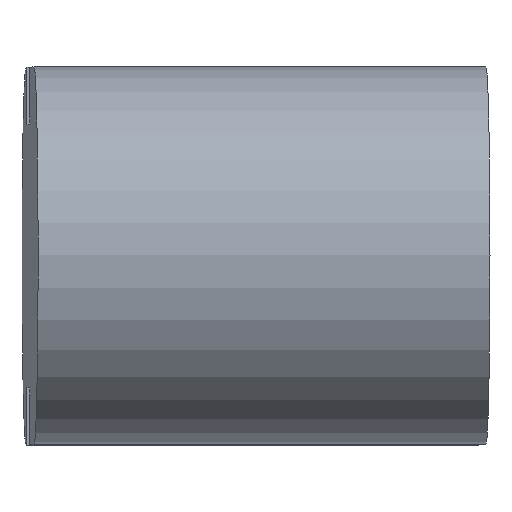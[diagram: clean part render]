
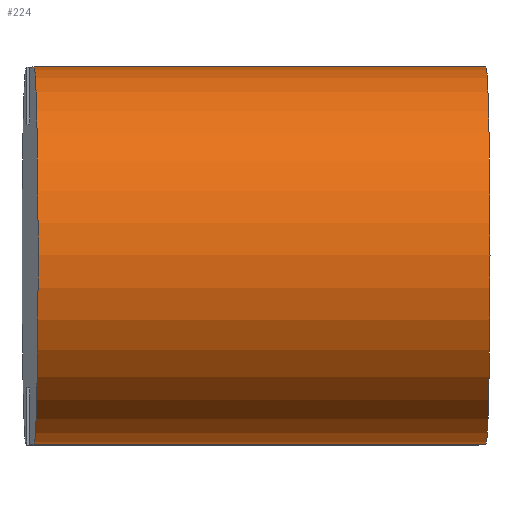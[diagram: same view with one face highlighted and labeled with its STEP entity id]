
A CAD part, top view. The second image highlights one B-rep face of the part: STEP entity #224.
In plain terms, the highlighted free-form (B-spline) face has degree [5, 3] with [6, 8] control points.
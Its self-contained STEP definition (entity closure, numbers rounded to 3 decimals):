
#128=FACE_OUTER_BOUND('',#251,.T.);
#133=(
BOUNDED_SURFACE()
B_SPLINE_SURFACE(5,3,((#843,#844,#845,#846,#847,#848,#849,#850),(#851,#852,
#853,#854,#855,#856,#857,#858),(#859,#860,#861,#862,#863,#864,#865,#866),
(#867,#868,#869,#870,#871,#872,#873,#874),(#875,#876,#877,#878,#879,#880,
#881,#882),(#883,#884,#885,#886,#887,#888,#889,#890)),.UNSPECIFIED.,.F.,
 .F.,.F.)
B_SPLINE_SURFACE_WITH_KNOTS((6,6),(4,2,2,4),(0.,1.),(0.,0.083,
0.917,1.),.UNSPECIFIED.)
GEOMETRIC_REPRESENTATION_ITEM()
RATIONAL_B_SPLINE_SURFACE(((1.,1.,1.,1.,1.,1.,1.,1.),(0.6,0.6,0.6,0.6,0.6,
0.6,0.6,0.6),(0.4,0.4,0.4,0.4,0.4,0.4,0.4,0.4),(0.4,0.4,0.4,0.4,0.4,0.4,
0.4,0.4),(0.6,0.6,0.6,0.6,0.6,0.6,0.6,0.6),(1.,1.,1.,1.,1.,1.,1.,1.)))
REPRESENTATION_ITEM('')
SURFACE()
);
#137=CIRCLE('',#424,190.253);
#141=CIRCLE('',#429,190.253);
#174=LINE('',#841,#208);
#175=LINE('',#842,#209);
#208=VECTOR('',#519,1.);
#209=VECTOR('',#520,1.);
#224=ADVANCED_FACE('',(#128),#133,.T.);
#251=EDGE_LOOP('',(#330,#331,#332,#333));
#330=ORIENTED_EDGE('',*,*,#415,.F.);
#331=ORIENTED_EDGE('',*,*,#402,.T.);
#332=ORIENTED_EDGE('',*,*,#416,.F.);
#333=ORIENTED_EDGE('',*,*,#382,.T.);
#352=VERTEX_POINT('',#775);
#353=VERTEX_POINT('',#777);
#370=VERTEX_POINT('',#814);
#371=VERTEX_POINT('',#816);
#382=EDGE_CURVE('',#353,#352,#137,.T.);
#402=EDGE_CURVE('',#371,#370,#141,.T.);
#415=EDGE_CURVE('',#371,#352,#174,.T.);
#416=EDGE_CURVE('',#353,#370,#175,.T.);
#424=AXIS2_PLACEMENT_3D('',#776,#457,#458);
#429=AXIS2_PLACEMENT_3D('',#815,#483,#484);
#457=DIRECTION('',(1.,0.,-0.021));
#458=DIRECTION('',(0.,1.,-0.001));
#483=DIRECTION('',(-1.,0.,0.021));
#484=DIRECTION('',(0.,-1.,0.001));
#519=DIRECTION('',(-1.,0.,0.021));
#520=DIRECTION('',(1.,0.,-0.021));
#775=CARTESIAN_POINT('',(11960.29,-195.204,-106.332));
#776=CARTESIAN_POINT('',(11960.291,-4.951,-106.271));
#777=CARTESIAN_POINT('',(11960.292,185.301,-106.209));
#814=CARTESIAN_POINT('',(12415.634,185.302,-115.92));
#815=CARTESIAN_POINT('',(12415.633,-4.951,-115.982));
#816=CARTESIAN_POINT('',(12415.632,-195.203,-116.044));
#841=CARTESIAN_POINT('',(12187.961,-195.203,-111.188));
#842=CARTESIAN_POINT('',(12187.963,185.302,-111.065));
#843=CARTESIAN_POINT('',(11914.758,185.301,-105.238));
#844=CARTESIAN_POINT('',(11929.936,185.301,-105.562));
#845=CARTESIAN_POINT('',(11945.114,185.301,-105.886));
#846=CARTESIAN_POINT('',(12112.073,185.302,-109.446));
#847=CARTESIAN_POINT('',(12263.854,185.302,-112.683));
#848=CARTESIAN_POINT('',(12430.812,185.302,-116.244));
#849=CARTESIAN_POINT('',(12445.99,185.302,-116.568));
#850=CARTESIAN_POINT('',(12461.168,185.302,-116.892));
#851=CARTESIAN_POINT('',(11917.462,185.26,21.568));
#852=CARTESIAN_POINT('',(11932.64,185.26,21.244));
#853=CARTESIAN_POINT('',(11947.818,185.26,20.921));
#854=CARTESIAN_POINT('',(12114.777,185.261,17.36));
#855=CARTESIAN_POINT('',(12266.558,185.261,14.123));
#856=CARTESIAN_POINT('',(12433.517,185.261,10.562));
#857=CARTESIAN_POINT('',(12448.695,185.261,10.238));
#858=CARTESIAN_POINT('',(12463.873,185.261,9.915));
#859=CARTESIAN_POINT('',(11920.842,90.083,180.045));
#860=CARTESIAN_POINT('',(11936.02,90.083,179.721));
#861=CARTESIAN_POINT('',(11951.198,90.083,179.398));
#862=CARTESIAN_POINT('',(12118.157,90.083,175.837));
#863=CARTESIAN_POINT('',(12269.938,90.083,172.6));
#864=CARTESIAN_POINT('',(12436.897,90.083,169.039));
#865=CARTESIAN_POINT('',(12452.075,90.084,168.715));
#866=CARTESIAN_POINT('',(12467.253,90.084,168.392));
#867=CARTESIAN_POINT('',(11920.841,-100.17,179.984));
#868=CARTESIAN_POINT('',(11936.019,-100.17,179.66));
#869=CARTESIAN_POINT('',(11951.197,-100.17,179.336));
#870=CARTESIAN_POINT('',(12118.156,-100.17,175.775));
#871=CARTESIAN_POINT('',(12269.937,-100.169,172.538));
#872=CARTESIAN_POINT('',(12436.896,-100.169,168.978));
#873=CARTESIAN_POINT('',(12452.074,-100.169,168.654));
#874=CARTESIAN_POINT('',(12467.252,-100.169,168.33));
#875=CARTESIAN_POINT('',(11917.46,-195.245,21.445));
#876=CARTESIAN_POINT('',(11932.638,-195.245,21.121));
#877=CARTESIAN_POINT('',(11947.816,-195.245,20.798));
#878=CARTESIAN_POINT('',(12114.775,-195.245,17.237));
#879=CARTESIAN_POINT('',(12266.556,-195.244,14.));
#880=CARTESIAN_POINT('',(12433.515,-195.244,10.439));
#881=CARTESIAN_POINT('',(12448.693,-195.244,10.115));
#882=CARTESIAN_POINT('',(12463.871,-195.244,9.792));
#883=CARTESIAN_POINT('',(11914.756,-195.204,-105.361));
#884=CARTESIAN_POINT('',(11929.934,-195.204,-105.685));
#885=CARTESIAN_POINT('',(11945.112,-195.204,-106.009));
#886=CARTESIAN_POINT('',(12112.071,-195.204,-109.569));
#887=CARTESIAN_POINT('',(12263.851,-195.203,-112.807));
#888=CARTESIAN_POINT('',(12430.81,-195.203,-116.367));
#889=CARTESIAN_POINT('',(12445.988,-195.203,-116.691));
#890=CARTESIAN_POINT('',(12461.166,-195.203,-117.015));
